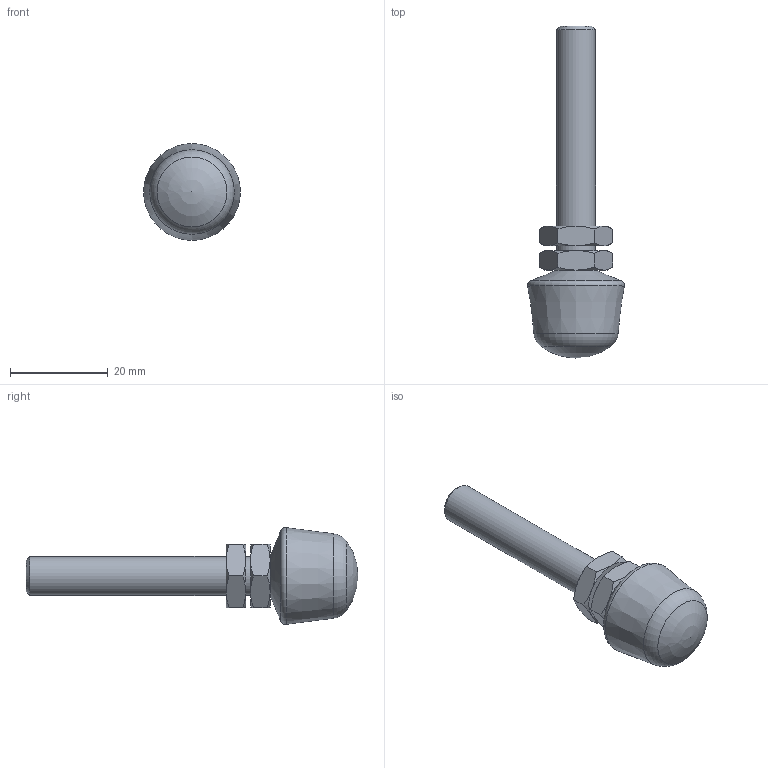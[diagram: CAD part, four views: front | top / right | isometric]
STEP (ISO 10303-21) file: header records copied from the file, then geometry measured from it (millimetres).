
FILE_DESCRIPTION( ( 'STEP AP203' ), '1' );
FILE_NAME( 'C:/Temp/Ganter_Step_05_03_2020/data/2_4/gn_708_1/gn_708_1_ni/Stainless Steel-Clamping bolt GN 708.1-M8-68-B-NI (0).stp', '2020-03-13T05:51:25', ( 'License CC BY-ND 4.0' ), ( 'CADENAS' ), ' ', 'PARTsolutions', ' ' );
FILE_SCHEMA( ( 'CONFIG_CONTROL_DESIGN' ) );
Length unit declared in the file: millimetre
Products named in the file (3): Stainless Steel-Clamping bolt GN 708.1-M8-68-B-NI (0); _Edelstahl-Andrueckschraube GN 708.1-M8-68-B-NI (0)-1; _Edelstahl-Andrueckschraube GN 708.1-M8-68-B-NI-2
Assembly tree (3 placements, depth 2):
  Stainless Steel-Clamping bolt GN 708.1-M8-68-B-NI (0)
    _Edelstahl-Andrueckschraube GN 708.1-M8-68-B-NI (0)-1
    _Edelstahl-Andrueckschraube GN 708.1-M8-68-B-NI-2  x2
Bounding box: 19.82 x 68 x 19.82 mm (x, y, z)
Volume: 7390.3 mm3; surface area: 3438.4 mm2
Topology: 3 solids, 3 shells, 54 faces, 114 edges, 65 vertices
Faces by surface type: cone 31, plane 17, cylinder 3, torus 2, sphere 1
Full cylindrical faces by diameter (mm): 6.647 x2, 8 x1
Entity records: 958 total; most frequent: CARTESIAN_POINT 261, DIRECTION 122, ORIENTED_EDGE 106, AXIS2_PLACEMENT_3D 58, EDGE_CURVE 53, EDGE_LOOP 42, VERTEX_POINT 37, FACE_OUTER_BOUND 35
